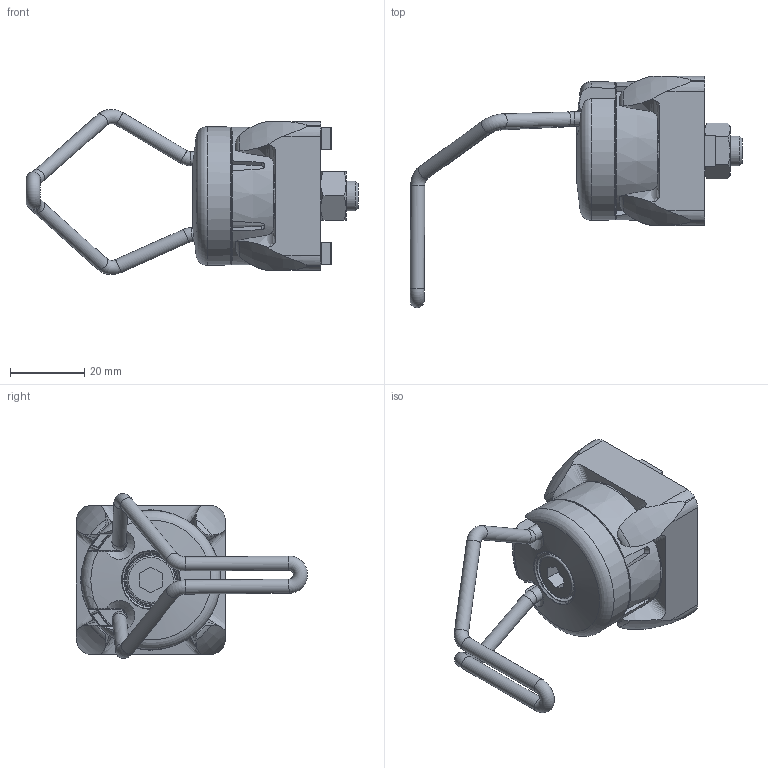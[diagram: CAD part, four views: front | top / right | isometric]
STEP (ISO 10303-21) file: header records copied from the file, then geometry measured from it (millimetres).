
FILE_DESCRIPTION(/* description */ ('STEP AP203'),/* implementation_level */ '2;1');
FILE_NAME(/* name */ '6TH240NG5050S01',/* time_stamp */ '2024-09-05T10:00:25+02:00',/* author */ ('License CC BY-ND 4.0'),/* organization */ ('CADENAS'),/* preprocessor_version */ 'ST-DEVELOPER v19.3',/* originating_system */ 'PARTsolutions',/* authorisation */ ' ');
FILE_SCHEMA (('CONFIG_CONTROL_DESIGN'));
Length unit declared in the file: millimetre
Products named in the file (7): 6TH240NG5050S01; 6TH240NG5050S01_1; 6TH240NG5050S01_3; 6TH240NG5050S01_4; 6TH240NG5050S01_5; 6TH240NG5050S01_6; 6TH240NG5050S01_2
Assembly tree (7 placements, depth 2):
  6TH240NG5050S01
    6TH240NG5050S01_1
    6TH240NG5050S01_3
    6TH240NG5050S01_4
    6TH240NG5050S01_5
    6TH240NG5050S01_6
    6TH240NG5050S01_2  x2
Bounding box: 89.19 x 62.07 x 44.32 mm (x, y, z)
Volume: 43676.6 mm3; surface area: 22800.3 mm2
Topology: 7 solids, 7 shells, 399 faces, 1065 edges, 695 vertices
Faces by surface type: plane 163, cylinder 153, torus 48, cone 30, bspline 4, sphere 1
Full cylindrical faces by diameter (mm): 3.8 x12, 6.647 x1, 8 x1, 13 x1
Entity records: 11688 total; most frequent: CARTESIAN_POINT 2656, DIRECTION 1851, ORIENTED_EDGE 1826, EDGE_CURVE 913, AXIS2_PLACEMENT_3D 716, VERTEX_POINT 623, EDGE_LOOP 430, FACE_BOUND 430
